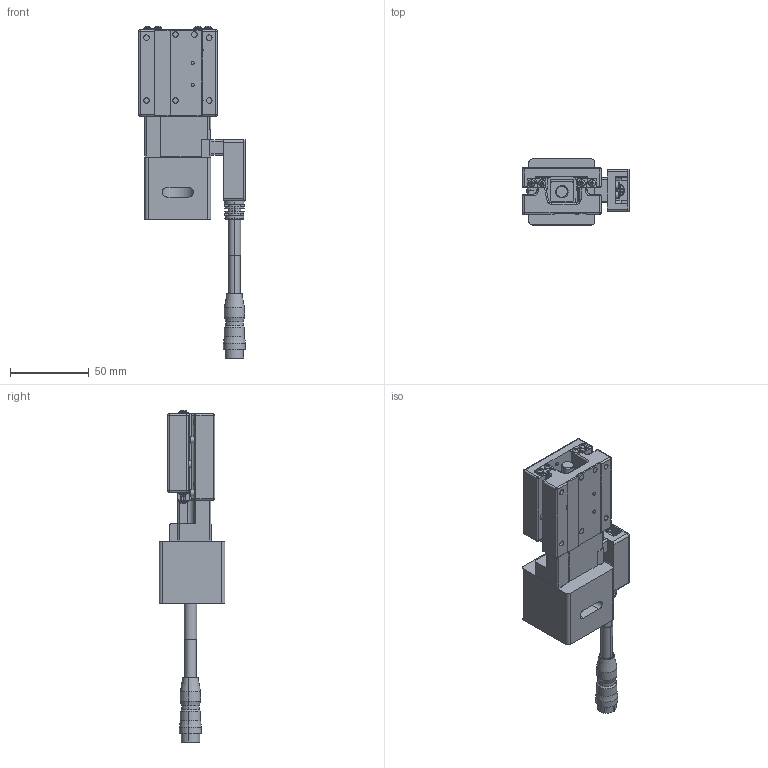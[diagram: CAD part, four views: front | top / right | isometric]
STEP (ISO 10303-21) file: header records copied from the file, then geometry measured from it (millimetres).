
FILE_DESCRIPTION (( 'STEP AP203' ), '1' );
FILE_NAME ('CXS5020(伺服M無馬達).STEP', '2023-12-11T08:58:46', ( '' ), ( '' ), 'SwSTEP 2.0', 'SolidWorks 2019', '' );
FILE_SCHEMA (( 'CONFIG_CONTROL_DESIGN' ));
Length unit declared in the file: millimetre
Products named in the file (6): 伺服馬達轉接板(P.C.D 46).step_GMT; Group1^CXS5020(伺服M無馬達)_defeature_GMT; CXS5020(伺服M無馬達); HR10A-10J-12P; Group2^CXS5020(伺服M無馬達)_defeature_GMT; 伺服馬達轉接軸.step_GMT
Assembly tree (5 placements, depth 2):
  CXS5020(伺服M無馬達)
    Group1^CXS5020(伺服M無馬達)_defeature_GMT
    Group2^CXS5020(伺服M無馬達)_defeature_GMT
    伺服馬達轉接軸.step_GMT
    伺服馬達轉接板(P.C.D 46).step_GMT
    HR10A-10J-12P
Bounding box: 68 x 42 x 211.4 mm (x, y, z)
Volume: 141885.3 mm3; surface area: 64642.7 mm2
Topology: 8 solids, 8 shells, 4782 faces, 12351 edges, 7804 vertices
Faces by surface type: plane 2558, bspline 1221, cylinder 729, cone 139, sphere 100, torus 35
Entity records: 158338 total; most frequent: CARTESIAN_POINT 51370, ORIENTED_EDGE 24482, DIRECTION 17500, EDGE_CURVE 12241, VERTEX_POINT 7804, LINE 7006, VECTOR 7006, AXIS2_PLACEMENT_3D 5247
